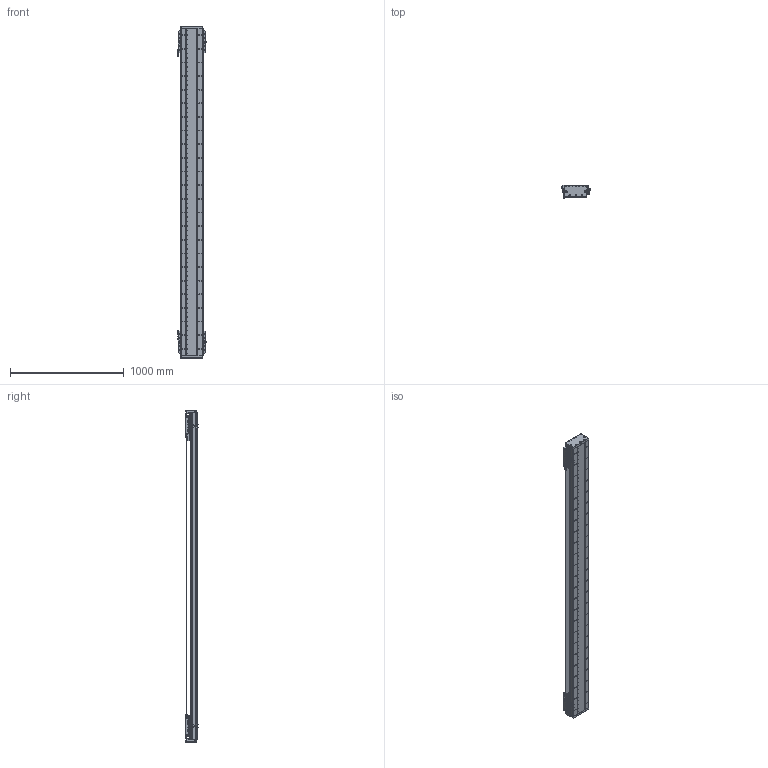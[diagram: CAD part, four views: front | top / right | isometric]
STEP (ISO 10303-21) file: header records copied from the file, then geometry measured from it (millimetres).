
FILE_DESCRIPTION (( 'STEP AP203' ), '1' );
FILE_NAME ('DA-C195-2-C2-T2420-C010-0.2 眻盄萇儂.STEP', '2025-08-14T02:11:03', ( '' ), ( '' ), 'SwSTEP 2.0', 'SolidWorks 2019', '' );
FILE_SCHEMA (( 'CONFIG_CONTROL_DESIGN' ));
Length unit declared in the file: millimetre
Products named in the file (19): PM-T45ㄗ侂狟ㄘ-1; DA165-GYP-00 光电感应片(默认)-1; MS200 棠掑喜S315-T1740-1; IU-CU195-L 菁釱絳寢-1; DA95-HXJ-00 遣喳砎蝶-1; DA195詩湍郪璃-1; CU195-C2賑輸-俋楷-1; DA195詩湍菜輸-1; LMT黍杅芛-1; DA-C195-GD-DB-H-00 傷啣-1; DKW-GYP-ZJ-00 笢潔嫖萇覜茼え-1; DKW-KGZ-ZJ-00 中间光电开关支架-1; DA195詩湍裔啣-1; DKW168-HXJ-ZJ-00 笢潔滅袉砎蝶-1; DA195詩湍嶺輸-1; DA-C195-2-C2-T2420-C010-0.2 眻盄萇儂; PM-Y65嫖萇羲壽郪璃-1; 葩璃 DA95-GT-T-00-1; IU-CU195-L-00 菁釱(L2880)
Assembly tree (37 placements, depth 3):
  DA-C195-2-C2-T2420-C010-0.2 眻盄萇儂
    DA195詩湍郪璃-1
      DA195詩湍菜輸-1  x2
      DA195詩湍裔啣-1
      DA195詩湍嶺輸-1  x2
      DA95-HXJ-00 遣喳砎蝶-1  x8
      DA-C195-GD-DB-H-00 傷啣-1  x2
    IU-CU195-L 菁釱絳寢-1
      IU-CU195-L-00 菁釱(L2880)
      葩璃 DA95-GT-T-00-1  x4
    LMT黍杅芛-1  x2
    MS200 棠掑喜S315-T1740-1
    PM-T45ㄗ侂狟ㄘ-1  x4
    DA165-GYP-00 光电感应片(默认)-1  x2
    PM-Y65嫖萇羲壽郪璃-1
    DKW168-HXJ-ZJ-00 笢潔滅袉砎蝶-1
    DKW-GYP-ZJ-00 笢潔嫖萇覜茼え-1
    DKW-KGZ-ZJ-00 中间光电开关支架-1
    CU195-C2賑輸-俋楷-1  x2
Bounding box: 258.2 x 115.45 x 2920 mm (x, y, z)
Volume: 17772192.6 mm3; surface area: 5185356.8 mm2
Topology: 114 solids, 242 shells, 7125 faces, 19031 edges, 11857 vertices
Faces by surface type: cylinder 3412, plane 2629, cone 916, torus 88, sphere 72, bspline 8
Entity records: 156995 total; most frequent: CARTESIAN_POINT 42787, ORIENTED_EDGE 23894, DIRECTION 22730, EDGE_CURVE 11947, AXIS2_PLACEMENT_3D 8385, VERTEX_POINT 7744, LINE 5960, VECTOR 5960
